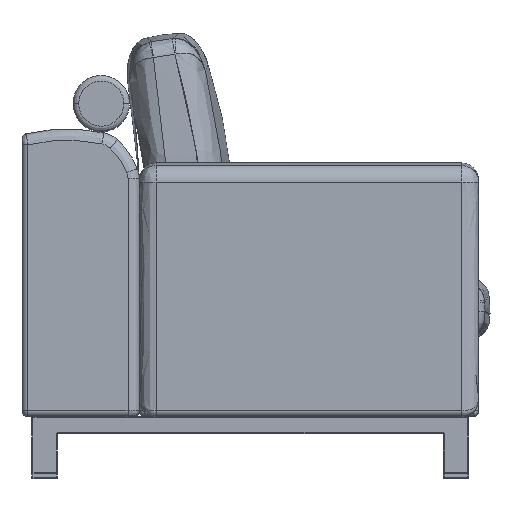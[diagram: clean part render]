
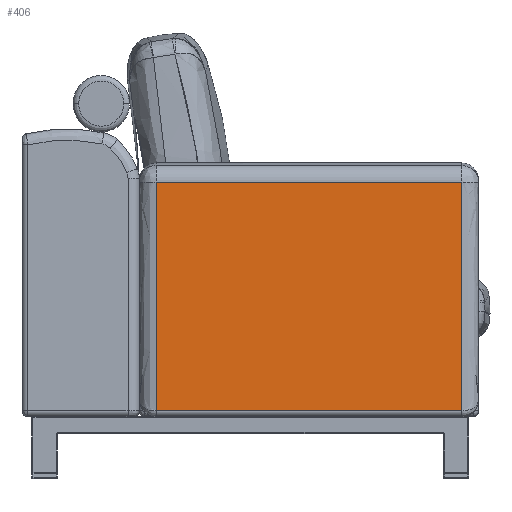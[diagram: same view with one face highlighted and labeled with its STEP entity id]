
A CAD part, left-side view. The second image highlights one B-rep face of the part: STEP entity #406.
In plain terms, the highlighted planar face has unit normal (-1, 0, 0).
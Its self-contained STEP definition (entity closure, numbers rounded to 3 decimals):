
#406=ADVANCED_FACE('',(#988),#8353,.T.);
#988=FACE_OUTER_BOUND('',#1570,.T.);
#1570=EDGE_LOOP('',(#2937,#2938,#2939,#2940));
#2937=ORIENTED_EDGE('',*,*,#5049,.F.);
#2938=ORIENTED_EDGE('',*,*,#5050,.F.);
#2939=ORIENTED_EDGE('',*,*,#5051,.F.);
#2940=ORIENTED_EDGE('',*,*,#5048,.F.);
#5048=EDGE_CURVE('',#7837,#7838,#6922,.T.);
#5049=EDGE_CURVE('',#7839,#7837,#6923,.T.);
#5050=EDGE_CURVE('',#7840,#7839,#6924,.T.);
#5051=EDGE_CURVE('',#7838,#7840,#6925,.T.);
#6922=B_SPLINE_CURVE_WITH_KNOTS('',1,(#53433,#53434),.UNSPECIFIED.,.F.,
 .F.,(2,2),(0.,405.732),.UNSPECIFIED.);
#6923=B_SPLINE_CURVE_WITH_KNOTS('',1,(#53435,#53436),.UNSPECIFIED.,.F.,
 .F.,(2,2),(0.,542.),.UNSPECIFIED.);
#6924=B_SPLINE_CURVE_WITH_KNOTS('',1,(#53437,#53438),.UNSPECIFIED.,.F.,
 .F.,(2,2),(0.,405.732),.UNSPECIFIED.);
#6925=B_SPLINE_CURVE_WITH_KNOTS('',1,(#53439,#53440),.UNSPECIFIED.,.F.,
 .F.,(2,2),(0.,542.),.UNSPECIFIED.);
#7837=VERTEX_POINT('',#53389);
#7838=VERTEX_POINT('',#53390);
#7839=VERTEX_POINT('',#53391);
#7840=VERTEX_POINT('',#53392);
#8353=PLANE('',#9041);
#9041=AXIS2_PLACEMENT_3D('',#52153,#9133,$);
#9133=DIRECTION('',(-1.,0.,0.));
#52153=CARTESIAN_POINT('',(-880.,-834.201,566.306));
#53389=CARTESIAN_POINT('',(-880.,-238.,120.));
#53390=CARTESIAN_POINT('',(-880.,-238.,525.732));
#53391=CARTESIAN_POINT('',(-880.,-780.,120.));
#53392=CARTESIAN_POINT('',(-880.,-780.,525.732));
#53433=CARTESIAN_POINT('',(-880.,-238.,120.));
#53434=CARTESIAN_POINT('',(-880.,-238.,525.732));
#53435=CARTESIAN_POINT('',(-880.,-780.,120.));
#53436=CARTESIAN_POINT('',(-880.,-238.,120.));
#53437=CARTESIAN_POINT('',(-880.,-780.,525.732));
#53438=CARTESIAN_POINT('',(-880.,-780.,120.));
#53439=CARTESIAN_POINT('',(-880.,-238.,525.732));
#53440=CARTESIAN_POINT('',(-880.,-780.,525.732));
